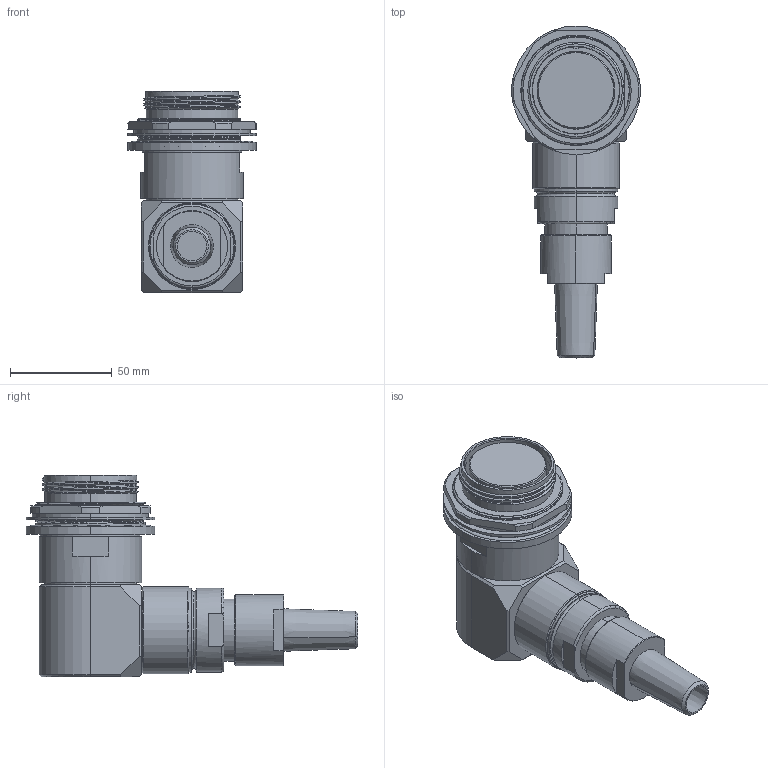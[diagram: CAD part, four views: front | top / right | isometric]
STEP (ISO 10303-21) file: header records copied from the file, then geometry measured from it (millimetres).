
FILE_DESCRIPTION (( 'STEP AP214' ), '1' );
FILE_NAME ('QLINK90-RJTX-29XX-SXXX.STEP', '2025-10-23T14:22:28', ( '' ), ( '' ), 'SwSTEP 2.0', 'SolidWorks 2024', '' );
FILE_SCHEMA (( 'AUTOMOTIVE_DESIGN' ));
Length unit declared in the file: millimetre
Products named in the file (1): QLINK90-RJTX-29XX-SXXX
Bounding box: 63.25 x 163.21 x 99.31 mm (x, y, z)
Volume: 294153.5 mm3; surface area: 52056.5 mm2
Topology: 2 solids, 4 shells, 283 faces, 707 edges, 455 vertices
Faces by surface type: cylinder 87, plane 72, cone 62, bspline 39, torus 23
Entity records: 19558 total; most frequent: CARTESIAN_POINT 13224, ORIENTED_EDGE 1414, DIRECTION 1225, EDGE_CURVE 707, AXIS2_PLACEMENT_3D 495, VERTEX_POINT 455, EDGE_LOOP 314, ADVANCED_FACE 283
